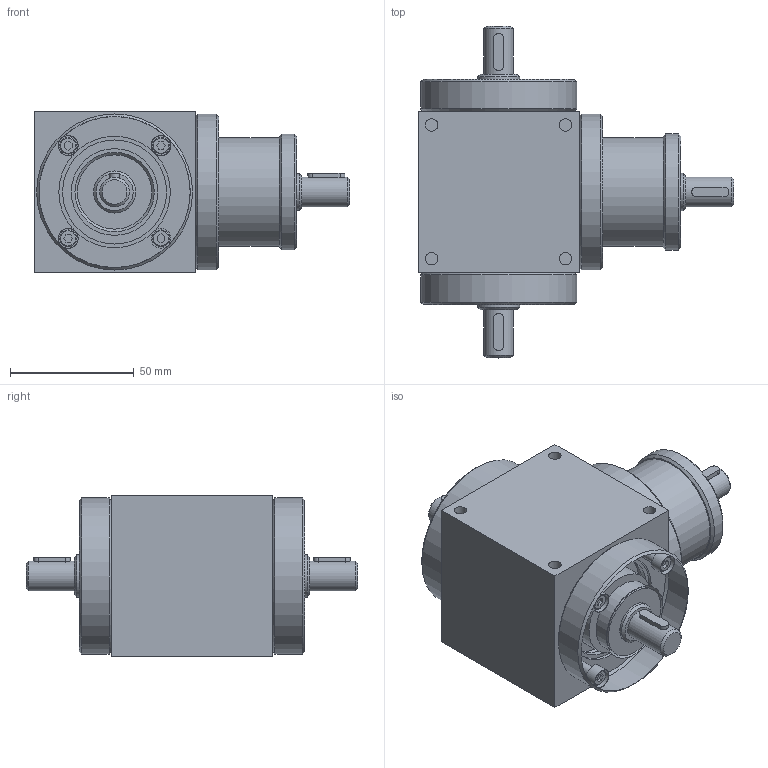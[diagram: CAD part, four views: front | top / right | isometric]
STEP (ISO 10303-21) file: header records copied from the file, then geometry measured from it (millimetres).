
FILE_DESCRIPTION(('STEP AP203'),'1');
FILE_NAME('SMB065.stp','2019-09-24T01:40:37',(' '),(' '),'Spatial InterOp 3D',' ',' ');
FILE_SCHEMA(('CONFIG_CONTROL_DESIGN'));
Length unit declared in the file: millimetre
Products named in the file (25): SHAFT; KEY; SMB065; INPUT COVER; SIDE COVER-1; SIDE COVER; HOUSING; INPUT SHAFT; OILSEAL; BOLT; 스크루 : Socket - M4.0 x 15.0
Assembly tree (24 placements, depth 3):
  SMB065
    SHAFT
      SHAFT
      KEY
    INPUT COVER
    SIDE COVER-1
    SIDE COVER
    HOUSING
    INPUT SHAFT
    OILSEAL
    OILSEAL
    OILSEAL
    BOLT
      스크루 : Socket - M4.0 x 15.0
      스크루 : Socket - M4.0 x 15.0
      스크루 : Socket - M4.0 x 15.0
      스크루 : Socket - M4.0 x 15.0
      스크루 : Socket - M4.0 x 15.0
      스크루 : Socket - M4.0 x 15.0
      스크루 : Socket - M4.0 x 15.0
      스크루 : Socket - M4.0 x 15.0
      스크루 : Socket - M4.0 x 15.0
      스크루 : Socket - M4.0 x 15.0
      스크루 : Socket - M4.0 x 15.0
      스크루 : Socket - M4.0 x 15.0
Bounding box: 127.5 x 134 x 65 mm (x, y, z)
Volume: 320120.7 mm3; surface area: 98486.4 mm2
Topology: 23 solids, 23 shells, 376 faces, 758 edges, 492 vertices
Faces by surface type: plane 211, cylinder 117, cone 48
Full cylindrical faces by diameter (mm): 3.3 x12, 4 x12, 4.5 x12, 5 x8, 6.9 x12, 8 x12, 12 x3, 15 x2, 17 x5, 24 x1, 25 x2, 30 x5, 35 x5, 42 x3, 44 x1, 45 x8, 47 x1, 63 x3
Entity records: 10258 total; most frequent: CARTESIAN_POINT 1689, DIRECTION 1640, ORIENTED_EDGE 1118, AXIS2_PLACEMENT_3D 686, EDGE_LOOP 642, EDGE_CURVE 559, FACE_OUTER_BOUND 483, VERTEX_POINT 451
